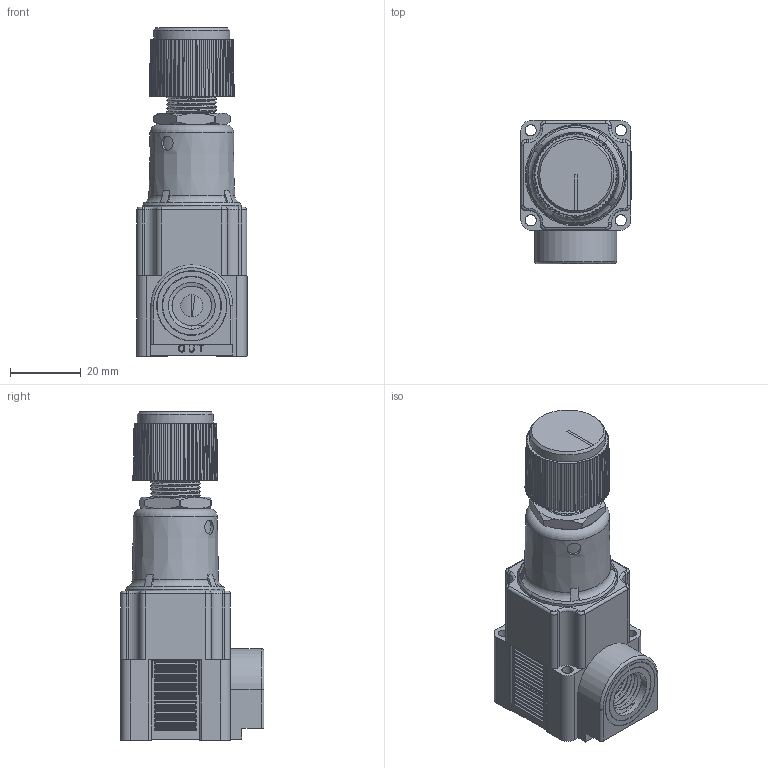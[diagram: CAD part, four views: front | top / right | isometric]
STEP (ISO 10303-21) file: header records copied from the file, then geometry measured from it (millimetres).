
FILE_DESCRIPTION(/* description */ (''),/* implementation_level */ '2;1');
FILE_NAME(/* name */ 'K:\Normteile INVENTOR\Air-Logic\Regulators\NR4000\NR 4___ 2 1''4-18 NPT Threads Out.igs.ipt.stp',/* time_stamp */ '2020-05-27T10:50:42+02:00',/* author */ ('Paul'),/* organization */ (''),/* preprocessor_version */ 'ST-DEVELOPER v18',/* originating_system */ 'Autodesk Inventor 2020',/* authorisation */ '');
FILE_SCHEMA (('AUTOMOTIVE_DESIGN { 1 0 10303 214 3 1 1 }'));
Length unit declared in the file: inch
Products named in the file (1): NR 4___ 2 1'4-18 NPT Threads Out.igs
Bounding box: 31.06 x 40.56 x 92.65 mm (x, y, z)
Volume: 58136.2 mm3; surface area: 19924.7 mm2
Topology: 1 solids, 1 shells, 959 faces, 2472 edges, 1578 vertices
Faces by surface type: plane 462, cylinder 348, cone 82, bspline 47, torus 20
Full cylindrical faces by diameter (mm): 3.175 x4, 3.988 x1, 4.039 x1, 4.064 x1, 6.223 x1, 6.248 x1, 11.163 x5, 13.208 x2, 14.288 x2, 16.408 x1, 16.717 x1, 19.406 x1, 19.612 x1, 19.825 x1, 21.476 x1, 26.264 x1, 27.94 x1, 27.991 x1, 28.575 x1
Entity records: 40071 total; most frequent: CARTESIAN_POINT 15374, DIRECTION 5064, ORIENTED_EDGE 4944, EDGE_CURVE 2472, AXIS2_PLACEMENT_3D 1927, VERTEX_POINT 1578, LINE 1210, VECTOR 1210
